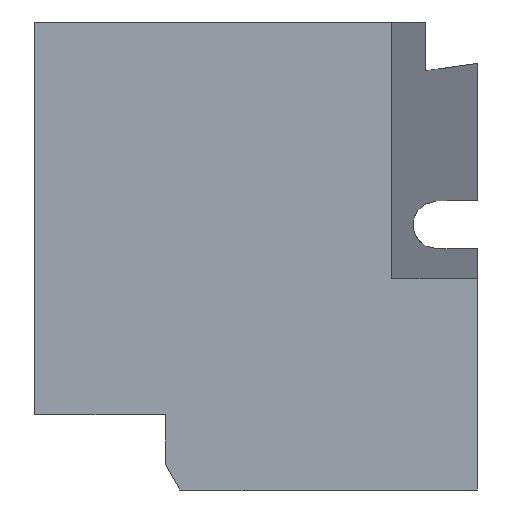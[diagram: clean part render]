
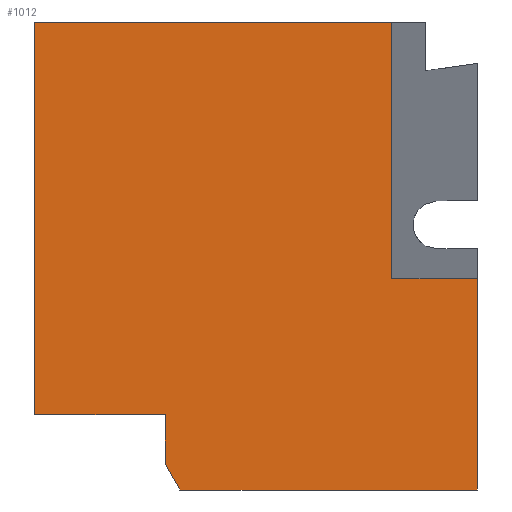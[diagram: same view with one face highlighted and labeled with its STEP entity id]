
A CAD part, left-side view. The second image highlights one B-rep face of the part: STEP entity #1012.
In plain terms, the highlighted planar face has unit normal (-1, 0, 0).
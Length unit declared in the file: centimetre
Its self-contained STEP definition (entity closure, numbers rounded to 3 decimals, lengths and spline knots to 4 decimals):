
#40 = VECTOR ( 'NONE', #414, 100. ) ;
#69 = LINE ( 'NONE', #1029, #692 ) ;
#81 = ORIENTED_EDGE ( 'NONE', *, *, #879, .F. ) ;
#91 = AXIS2_PLACEMENT_3D ( 'NONE', #584, #356, #976 ) ;
#113 = LINE ( 'NONE', #419, #40 ) ;
#115 = ORIENTED_EDGE ( 'NONE', *, *, #347, .T. ) ;
#139 = VERTEX_POINT ( 'NONE', #367 ) ;
#154 = EDGE_LOOP ( 'NONE', ( #81, #698, #951, #115, #645, #423, #1025, #267, #549 ) ) ;
#178 = VERTEX_POINT ( 'NONE', #274 ) ;
#194 = CARTESIAN_POINT ( 'NONE',  ( 0., 720.5077, 161.2351 ) ) ;
#214 = CARTESIAN_POINT ( 'NONE',  ( 0., 1000., 1000. ) ) ;
#220 = LINE ( 'NONE', #541, #819 ) ;
#222 = CARTESIAN_POINT ( 'NONE',  ( 0., 1000., 0. ) ) ;
#229 = CARTESIAN_POINT ( 'NONE',  ( 0., 689.581, 0. ) ) ;
#238 = VERTEX_POINT ( 'NONE', #194 ) ;
#239 = EDGE_CURVE ( 'NONE', #238, #252, #280, .T. ) ;
#252 = VERTEX_POINT ( 'NONE', #594 ) ;
#253 = PLANE ( 'NONE',  #91 ) ;
#267 = ORIENTED_EDGE ( 'NONE', *, *, #578, .T. ) ;
#269 = CARTESIAN_POINT ( 'NONE',  ( 0., 1000., 1000. ) ) ;
#274 = CARTESIAN_POINT ( 'NONE',  ( 0., 53.9534, 451.104 ) ) ;
#280 = LINE ( 'NONE', #285, #634 ) ;
#285 = CARTESIAN_POINT ( 'NONE',  ( 0., 720.5077, 161.2351 ) ) ;
#303 = CARTESIAN_POINT ( 'NONE',  ( 0., 53.9534, 0. ) ) ;
#309 = LINE ( 'NONE', #229, #706 ) ;
#318 = LINE ( 'NONE', #636, #754 ) ;
#338 = LINE ( 'NONE', #269, #952 ) ;
#347 = EDGE_CURVE ( 'NONE', #640, #252, #658, .T. ) ;
#356 = DIRECTION ( 'NONE',  ( 1., 0., 0. ) ) ;
#367 = CARTESIAN_POINT ( 'NONE',  ( 0., 689.581, 0. ) ) ;
#373 = EDGE_CURVE ( 'NONE', #640, #885, #338, .T. ) ;
#393 = CARTESIAN_POINT ( 'NONE',  ( 0., 720.5077, 54.6773 ) ) ;
#399 = VERTEX_POINT ( 'NONE', #456 ) ;
#414 = DIRECTION ( 'NONE',  ( 0., 0., 1. ) ) ;
#419 = CARTESIAN_POINT ( 'NONE',  ( 0., 236.7683, 451.104 ) ) ;
#423 = ORIENTED_EDGE ( 'NONE', *, *, #713, .F. ) ;
#456 = CARTESIAN_POINT ( 'NONE',  ( 0., 236.7683, 451.104 ) ) ;
#482 = DIRECTION ( 'NONE',  ( 0., -1., 0. ) ) ;
#541 = CARTESIAN_POINT ( 'NONE',  ( 0., 53.9534, 657.3368 ) ) ;
#549 = ORIENTED_EDGE ( 'NONE', *, *, #684, .F. ) ;
#576 = EDGE_CURVE ( 'NONE', #689, #139, #309, .T. ) ;
#578 = EDGE_CURVE ( 'NONE', #139, #682, #932, .T. ) ;
#584 = CARTESIAN_POINT ( 'NONE',  ( 0., 1000., 1000. ) ) ;
#594 = CARTESIAN_POINT ( 'NONE',  ( 0., 1000., 161.2351 ) ) ;
#600 = DIRECTION ( 'NONE',  ( 0., 1., 0. ) ) ;
#634 = VECTOR ( 'NONE', #600, 100. ) ;
#635 = DIRECTION ( 'NONE',  ( 0., 0., 1. ) ) ;
#636 = CARTESIAN_POINT ( 'NONE',  ( 0., 236.7683, 451.104 ) ) ;
#640 = VERTEX_POINT ( 'NONE', #214 ) ;
#645 = ORIENTED_EDGE ( 'NONE', *, *, #239, .F. ) ;
#658 = LINE ( 'NONE', #1034, #852 ) ;
#660 = FACE_OUTER_BOUND ( 'NONE', #154, .T. ) ;
#682 = VERTEX_POINT ( 'NONE', #303 ) ;
#684 = EDGE_CURVE ( 'NONE', #178, #682, #220, .T. ) ;
#689 = VERTEX_POINT ( 'NONE', #393 ) ;
#692 = VECTOR ( 'NONE', #635, 100. ) ;
#698 = ORIENTED_EDGE ( 'NONE', *, *, #953, .T. ) ;
#706 = VECTOR ( 'NONE', #788, 100. ) ;
#713 = EDGE_CURVE ( 'NONE', #689, #238, #69, .T. ) ;
#714 = CARTESIAN_POINT ( 'NONE',  ( 0., 236.7683, 1000. ) ) ;
#754 = VECTOR ( 'NONE', #482, 100. ) ;
#788 = DIRECTION ( 'NONE',  ( 0., -0.492, -0.87 ) ) ;
#819 = VECTOR ( 'NONE', #934, 100. ) ;
#837 = VECTOR ( 'NONE', #851, 100. ) ;
#851 = DIRECTION ( 'NONE',  ( 0., -1., 0. ) ) ;
#852 = VECTOR ( 'NONE', #949, 100. ) ;
#879 = EDGE_CURVE ( 'NONE', #399, #178, #318, .T. ) ;
#885 = VERTEX_POINT ( 'NONE', #714 ) ;
#898 = DIRECTION ( 'NONE',  ( 0., -1., 0. ) ) ;
#932 = LINE ( 'NONE', #222, #837 ) ;
#934 = DIRECTION ( 'NONE',  ( 0., 0., -1. ) ) ;
#949 = DIRECTION ( 'NONE',  ( 0., 0., -1. ) ) ;
#951 = ORIENTED_EDGE ( 'NONE', *, *, #373, .F. ) ;
#952 = VECTOR ( 'NONE', #898, 100. ) ;
#953 = EDGE_CURVE ( 'NONE', #399, #885, #113, .T. ) ;
#976 = DIRECTION ( 'NONE',  ( 0., 0., -1. ) ) ;
#1012 = ADVANCED_FACE ( 'NONE', ( #660 ), #253, .F. ) ;
#1025 = ORIENTED_EDGE ( 'NONE', *, *, #576, .T. ) ;
#1029 = CARTESIAN_POINT ( 'NONE',  ( 0., 720.5077, 161.2351 ) ) ;
#1034 = CARTESIAN_POINT ( 'NONE',  ( 0., 1000., 1000. ) ) ;
